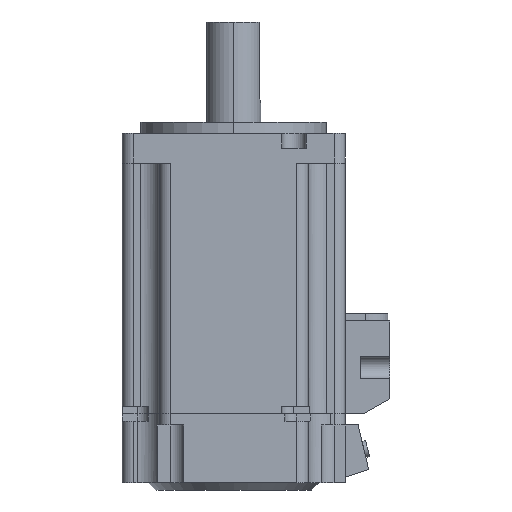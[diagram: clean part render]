
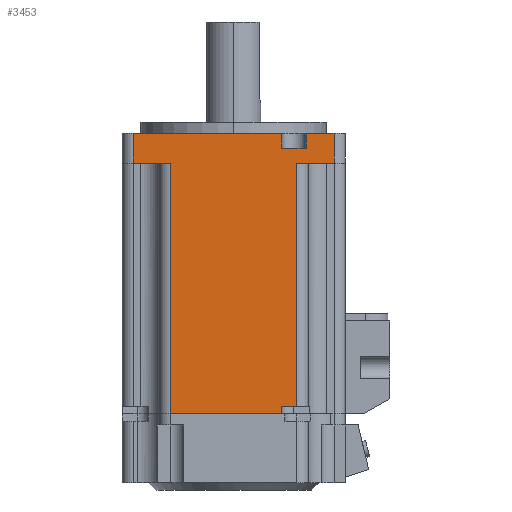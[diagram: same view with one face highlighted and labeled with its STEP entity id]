
A CAD part, left-side view. The second image highlights one B-rep face of the part: STEP entity #3453.
In plain terms, the highlighted planar face has unit normal (-1, 0, 0).
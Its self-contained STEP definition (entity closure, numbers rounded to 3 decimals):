
#146 = DIRECTION ( 'NONE',  ( 0., 1., 0. ) ) ;
#163 = PLANE ( 'NONE',  #7963 ) ;
#164 = CARTESIAN_POINT ( 'NONE',  ( -30., -17., -67.5 ) ) ;
#179 = DIRECTION ( 'NONE',  ( 0., 1., 0. ) ) ;
#195 = LINE ( 'NONE', #2900, #8609 ) ;
#248 = CARTESIAN_POINT ( 'NONE',  ( -30., 0., 8. ) ) ;
#254 = CARTESIAN_POINT ( 'NONE',  ( -30., -27., 8. ) ) ;
#605 = VERTEX_POINT ( 'NONE', #3732 ) ;
#619 = LINE ( 'NONE', #3336, #2885 ) ;
#628 = CARTESIAN_POINT ( 'NONE',  ( -30., -12.974, 8. ) ) ;
#659 = VERTEX_POINT ( 'NONE', #7939 ) ;
#730 = LINE ( 'NONE', #3441, #6821 ) ;
#988 = CARTESIAN_POINT ( 'NONE',  ( -30., 27., 0. ) ) ;
#993 = VERTEX_POINT ( 'NONE', #2002 ) ;
#1003 = DIRECTION ( 'NONE',  ( 0., 1., 0. ) ) ;
#1177 = VECTOR ( 'NONE', #8086, 1000. ) ;
#1316 = LINE ( 'NONE', #4026, #7683 ) ;
#1334 = ORIENTED_EDGE ( 'NONE', *, *, #3381, .T. ) ;
#1379 = EDGE_CURVE ( 'NONE', #2757, #993, #6359, .T. ) ;
#1424 = ORIENTED_EDGE ( 'NONE', *, *, #2850, .F. ) ;
#1468 = ORIENTED_EDGE ( 'NONE', *, *, #5937, .T. ) ;
#1569 = EDGE_LOOP ( 'NONE', ( #4990, #6152, #4628, #1791, #7885, #4181, #2145, #1334, #1424, #1468, #2197, #1594, #6428, #2968 ) ) ;
#1594 = ORIENTED_EDGE ( 'NONE', *, *, #4264, .F. ) ;
#1618 = CARTESIAN_POINT ( 'NONE',  ( -30., 27., 8. ) ) ;
#1654 = LINE ( 'NONE', #4355, #7462 ) ;
#1670 = EDGE_CURVE ( 'NONE', #4489, #659, #730, .T. ) ;
#1791 = ORIENTED_EDGE ( 'NONE', *, *, #8778, .F. ) ;
#2002 = CARTESIAN_POINT ( 'NONE',  ( -30., -19.474, 8. ) ) ;
#2020 = VECTOR ( 'NONE', #2960, 1000. ) ;
#2076 = CARTESIAN_POINT ( 'NONE',  ( -30., -12.974, -67.5 ) ) ;
#2145 = ORIENTED_EDGE ( 'NONE', *, *, #2227, .T. ) ;
#2173 = VECTOR ( 'NONE', #4320, 1000. ) ;
#2197 = ORIENTED_EDGE ( 'NONE', *, *, #8619, .T. ) ;
#2203 = DIRECTION ( 'NONE',  ( 0., 0., -1. ) ) ;
#2220 = VECTOR ( 'NONE', #2203, 1000. ) ;
#2227 = EDGE_CURVE ( 'NONE', #993, #5262, #5588, .T. ) ;
#2418 = CARTESIAN_POINT ( 'NONE',  ( -30., -17., -65.5 ) ) ;
#2572 = CARTESIAN_POINT ( 'NONE',  ( -30., -27., 0. ) ) ;
#2623 = LINE ( 'NONE', #5357, #1177 ) ;
#2641 = CARTESIAN_POINT ( 'NONE',  ( -30., -12.974, 8. ) ) ;
#2722 = EDGE_CURVE ( 'NONE', #4489, #4855, #6278, .T. ) ;
#2757 = VERTEX_POINT ( 'NONE', #254 ) ;
#2850 = EDGE_CURVE ( 'NONE', #3135, #6473, #6745, .T. ) ;
#2872 = CARTESIAN_POINT ( 'NONE',  ( -30., 0., 8. ) ) ;
#2874 = DIRECTION ( 'NONE',  ( 0., 0., 1. ) ) ;
#2885 = VECTOR ( 'NONE', #6081, 1000. ) ;
#2900 = CARTESIAN_POINT ( 'NONE',  ( -30., -12.974, -65.5 ) ) ;
#2960 = DIRECTION ( 'NONE',  ( 0., 1., 0. ) ) ;
#2968 = ORIENTED_EDGE ( 'NONE', *, *, #6110, .F. ) ;
#3135 = VERTEX_POINT ( 'NONE', #2641 ) ;
#3336 = CARTESIAN_POINT ( 'NONE',  ( -30., -27., 8. ) ) ;
#3347 = DIRECTION ( 'NONE',  ( 0., 0., -1. ) ) ;
#3357 = CARTESIAN_POINT ( 'NONE',  ( -30., 17., 0. ) ) ;
#3381 = EDGE_CURVE ( 'NONE', #5262, #6473, #4377, .T. ) ;
#3441 = CARTESIAN_POINT ( 'NONE',  ( -30., -12.974, -65.5 ) ) ;
#3453 = ADVANCED_FACE ( 'NONE', ( #6277 ), #163, .T. ) ;
#3527 = LINE ( 'NONE', #6261, #8171 ) ;
#3541 = VERTEX_POINT ( 'NONE', #3811 ) ;
#3552 = LINE ( 'NONE', #6287, #3665 ) ;
#3665 = VECTOR ( 'NONE', #179, 1000. ) ;
#3719 = VERTEX_POINT ( 'NONE', #2076 ) ;
#3732 = CARTESIAN_POINT ( 'NONE',  ( -30., 17., -67.5 ) ) ;
#3769 = DIRECTION ( 'NONE',  ( 0., 1., 0. ) ) ;
#3811 = CARTESIAN_POINT ( 'NONE',  ( -30., 27., 8. ) ) ;
#3934 = VECTOR ( 'NONE', #3347, 1000. ) ;
#4026 = CARTESIAN_POINT ( 'NONE',  ( -30., 0., -67.5 ) ) ;
#4181 = ORIENTED_EDGE ( 'NONE', *, *, #1379, .T. ) ;
#4264 = EDGE_CURVE ( 'NONE', #6546, #7316, #3527, .T. ) ;
#4320 = DIRECTION ( 'NONE',  ( 0., 0., -1. ) ) ;
#4355 = CARTESIAN_POINT ( 'NONE',  ( -30., 17., -67.5 ) ) ;
#4377 = LINE ( 'NONE', #7107, #6118 ) ;
#4489 = VERTEX_POINT ( 'NONE', #2418 ) ;
#4628 = ORIENTED_EDGE ( 'NONE', *, *, #2722, .T. ) ;
#4855 = VERTEX_POINT ( 'NONE', #7798 ) ;
#4946 = VECTOR ( 'NONE', #2874, 1000. ) ;
#4990 = ORIENTED_EDGE ( 'NONE', *, *, #5587, .F. ) ;
#5015 = CARTESIAN_POINT ( 'NONE',  ( -30., -19.474, 4. ) ) ;
#5245 = CARTESIAN_POINT ( 'NONE',  ( -30., -12.974, 4. ) ) ;
#5262 = VERTEX_POINT ( 'NONE', #5015 ) ;
#5357 = CARTESIAN_POINT ( 'NONE',  ( -30., 0., 0. ) ) ;
#5507 = EDGE_CURVE ( 'NONE', #2757, #7470, #619, .T. ) ;
#5587 = EDGE_CURVE ( 'NONE', #659, #3719, #195, .T. ) ;
#5588 = LINE ( 'NONE', #8332, #2220 ) ;
#5613 = DIRECTION ( 'NONE',  ( -1., 0., 0. ) ) ;
#5641 = DIRECTION ( 'NONE',  ( 0., 0., -1. ) ) ;
#5937 = EDGE_CURVE ( 'NONE', #3135, #3541, #3552, .T. ) ;
#6081 = DIRECTION ( 'NONE',  ( 0., 0., -1. ) ) ;
#6110 = EDGE_CURVE ( 'NONE', #3719, #605, #1316, .T. ) ;
#6118 = VECTOR ( 'NONE', #1003, 1000. ) ;
#6152 = ORIENTED_EDGE ( 'NONE', *, *, #1670, .F. ) ;
#6261 = CARTESIAN_POINT ( 'NONE',  ( -30., 0., 0. ) ) ;
#6277 = FACE_OUTER_BOUND ( 'NONE', #1569, .T. ) ;
#6278 = LINE ( 'NONE', #164, #4946 ) ;
#6287 = CARTESIAN_POINT ( 'NONE',  ( -30., 0., 8. ) ) ;
#6359 = LINE ( 'NONE', #248, #2020 ) ;
#6428 = ORIENTED_EDGE ( 'NONE', *, *, #7553, .F. ) ;
#6473 = VERTEX_POINT ( 'NONE', #5245 ) ;
#6546 = VERTEX_POINT ( 'NONE', #3357 ) ;
#6745 = LINE ( 'NONE', #628, #3934 ) ;
#6763 = DIRECTION ( 'NONE',  ( 0., 1., 0. ) ) ;
#6821 = VECTOR ( 'NONE', #3769, 1000. ) ;
#7083 = DIRECTION ( 'NONE',  ( 0., 0., 1. ) ) ;
#7107 = CARTESIAN_POINT ( 'NONE',  ( -30., -19.474, 4. ) ) ;
#7316 = VERTEX_POINT ( 'NONE', #988 ) ;
#7462 = VECTOR ( 'NONE', #7083, 1000. ) ;
#7470 = VERTEX_POINT ( 'NONE', #2572 ) ;
#7553 = EDGE_CURVE ( 'NONE', #605, #6546, #1654, .T. ) ;
#7683 = VECTOR ( 'NONE', #6763, 1000. ) ;
#7733 = LINE ( 'NONE', #1618, #2173 ) ;
#7798 = CARTESIAN_POINT ( 'NONE',  ( -30., -17., 0. ) ) ;
#7885 = ORIENTED_EDGE ( 'NONE', *, *, #5507, .F. ) ;
#7939 = CARTESIAN_POINT ( 'NONE',  ( -30., -12.974, -65.5 ) ) ;
#7963 = AXIS2_PLACEMENT_3D ( 'NONE', #2872, #5613, #8351 ) ;
#8086 = DIRECTION ( 'NONE',  ( 0., 1., 0. ) ) ;
#8171 = VECTOR ( 'NONE', #146, 1000. ) ;
#8332 = CARTESIAN_POINT ( 'NONE',  ( -30., -19.474, 8. ) ) ;
#8351 = DIRECTION ( 'NONE',  ( 0., 0., 1. ) ) ;
#8609 = VECTOR ( 'NONE', #5641, 1000. ) ;
#8619 = EDGE_CURVE ( 'NONE', #3541, #7316, #7733, .T. ) ;
#8778 = EDGE_CURVE ( 'NONE', #7470, #4855, #2623, .T. ) ;
